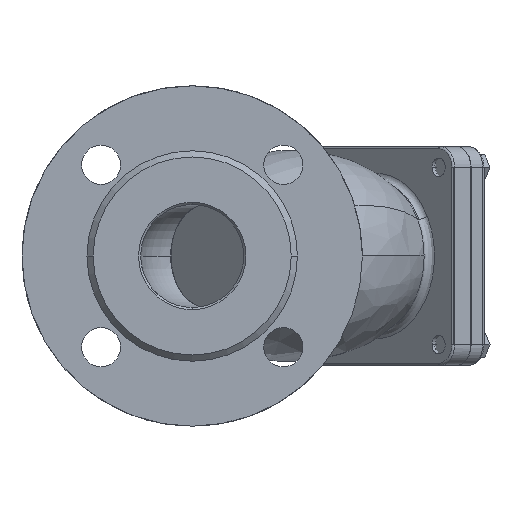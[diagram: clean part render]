
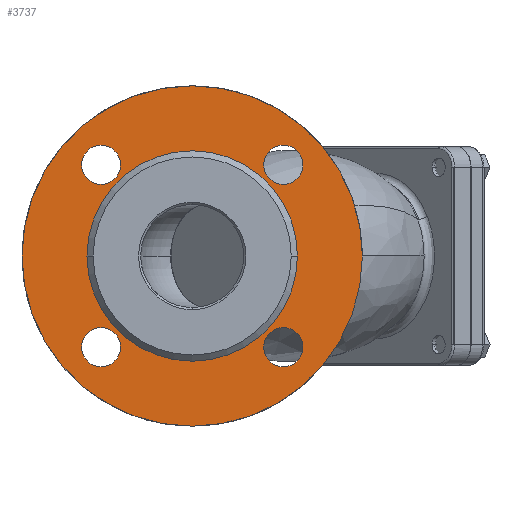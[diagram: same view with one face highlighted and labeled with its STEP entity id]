
A CAD part, left-side view. The second image highlights one B-rep face of the part: STEP entity #3737.
In plain terms, the highlighted planar face has unit normal (-1, 0, 0).
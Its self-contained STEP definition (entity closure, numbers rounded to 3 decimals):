
#68 = DIRECTION ( 'NONE',  ( 0., 0., -1. ) ) ;
#419 = CIRCLE ( 'NONE', #4062, 9.5 ) ;
#568 = CIRCLE ( 'NONE', #13527, 9.5 ) ;
#1016 = DIRECTION ( 'NONE',  ( 0., 0., -1. ) ) ;
#1295 = CARTESIAN_POINT ( 'NONE',  ( 3., -44.194, 34.694 ) ) ;
#1313 = FACE_OUTER_BOUND ( 'NONE', #5876, .T. ) ;
#1398 = EDGE_LOOP ( 'NONE', ( #5089, #13209 ) ) ;
#1511 = CIRCLE ( 'NONE', #20435, 82.5 ) ;
#1589 = CARTESIAN_POINT ( 'NONE',  ( 3., -51., 0. ) ) ;
#2378 = DIRECTION ( 'NONE',  ( -1., 0., 0. ) ) ;
#2703 = CARTESIAN_POINT ( 'NONE',  ( 3., -44.194, 53.694 ) ) ;
#2754 = EDGE_CURVE ( 'NONE', #15915, #18581, #7198, .T. ) ;
#3104 = EDGE_LOOP ( 'NONE', ( #18229, #4578 ) ) ;
#3315 = EDGE_CURVE ( 'NONE', #18244, #14681, #24243, .T. ) ;
#3737 = ADVANCED_FACE ( 'NONE', ( #15717, #10690, #11272, #20742, #1313, #5717 ), #8207, .T. ) ;
#4062 = AXIS2_PLACEMENT_3D ( 'NONE', #7717, #20879, #9604 ) ;
#4281 = ORIENTED_EDGE ( 'NONE', *, *, #4441, .F. ) ;
#4441 = EDGE_CURVE ( 'NONE', #14681, #18244, #419, .T. ) ;
#4491 = CARTESIAN_POINT ( 'NONE',  ( 3., 0., 0. ) ) ;
#4578 = ORIENTED_EDGE ( 'NONE', *, *, #19159, .F. ) ;
#4951 = CARTESIAN_POINT ( 'NONE',  ( 3., 44.194, -44.194 ) ) ;
#4968 = ORIENTED_EDGE ( 'NONE', *, *, #22694, .F. ) ;
#5089 = ORIENTED_EDGE ( 'NONE', *, *, #17527, .T. ) ;
#5161 = CARTESIAN_POINT ( 'NONE',  ( 3., 0., 82.5 ) ) ;
#5322 = EDGE_LOOP ( 'NONE', ( #15177, #14580 ) ) ;
#5614 = CIRCLE ( 'NONE', #23108, 9.5 ) ;
#5658 = DIRECTION ( 'NONE',  ( -1., 0., 0. ) ) ;
#5717 = FACE_BOUND ( 'NONE', #1398, .T. ) ;
#5727 = ORIENTED_EDGE ( 'NONE', *, *, #10295, .F. ) ;
#5809 = CARTESIAN_POINT ( 'NONE',  ( 3., -44.194, 44.194 ) ) ;
#5876 = EDGE_LOOP ( 'NONE', ( #7886, #5727 ) ) ;
#5897 = VERTEX_POINT ( 'NONE', #17127 ) ;
#5934 = DIRECTION ( 'NONE',  ( -1., 0., 0. ) ) ;
#6174 = CARTESIAN_POINT ( 'NONE',  ( 3., 0., 0. ) ) ;
#6376 = DIRECTION ( 'NONE',  ( 0., 0., 1. ) ) ;
#6380 = CIRCLE ( 'NONE', #17819, 82.5 ) ;
#6480 = EDGE_CURVE ( 'NONE', #10791, #16294, #10645, .T. ) ;
#6738 = AXIS2_PLACEMENT_3D ( 'NONE', #6174, #19339, #8083 ) ;
#6828 = DIRECTION ( 'NONE',  ( 0., 0., 1. ) ) ;
#7198 = CIRCLE ( 'NONE', #11740, 9.5 ) ;
#7221 = CARTESIAN_POINT ( 'NONE',  ( 3., -44.194, -44.194 ) ) ;
#7240 = AXIS2_PLACEMENT_3D ( 'NONE', #7221, #20392, #9122 ) ;
#7340 = VERTEX_POINT ( 'NONE', #1589 ) ;
#7414 = DIRECTION ( 'NONE',  ( 1., 0., 0. ) ) ;
#7598 = AXIS2_PLACEMENT_3D ( 'NONE', #18657, #7414, #20579 ) ;
#7716 = DIRECTION ( 'NONE',  ( 0., 0., 1. ) ) ;
#7717 = CARTESIAN_POINT ( 'NONE',  ( 3., 44.194, 44.194 ) ) ;
#7886 = ORIENTED_EDGE ( 'NONE', *, *, #19948, .F. ) ;
#8083 = DIRECTION ( 'NONE',  ( 0., 1., 0. ) ) ;
#8207 = PLANE ( 'NONE',  #9590 ) ;
#8804 = AXIS2_PLACEMENT_3D ( 'NONE', #16899, #5658, #18810 ) ;
#9122 = DIRECTION ( 'NONE',  ( 0., 0., 1. ) ) ;
#9124 = DIRECTION ( 'NONE',  ( -1., 0., 0. ) ) ;
#9590 = AXIS2_PLACEMENT_3D ( 'NONE', #4491, #17610, #6376 ) ;
#9604 = DIRECTION ( 'NONE',  ( 0., 0., 1. ) ) ;
#10295 = EDGE_CURVE ( 'NONE', #13109, #19609, #1511, .T. ) ;
#10539 = EDGE_LOOP ( 'NONE', ( #4968, #17646 ) ) ;
#10645 = CIRCLE ( 'NONE', #7240, 9.5 ) ;
#10690 = FACE_BOUND ( 'NONE', #5322, .T. ) ;
#10715 = CARTESIAN_POINT ( 'NONE',  ( 3., -44.194, -53.694 ) ) ;
#10791 = VERTEX_POINT ( 'NONE', #10715 ) ;
#11040 = CARTESIAN_POINT ( 'NONE',  ( 3., -44.194, -34.694 ) ) ;
#11271 = DIRECTION ( 'NONE',  ( 1., 0., 0. ) ) ;
#11272 = FACE_BOUND ( 'NONE', #3104, .T. ) ;
#11740 = AXIS2_PLACEMENT_3D ( 'NONE', #13615, #2378, #15532 ) ;
#12227 = DIRECTION ( 'NONE',  ( 1., 0., 0. ) ) ;
#12237 = AXIS2_PLACEMENT_3D ( 'NONE', #4951, #18071, #6828 ) ;
#12660 = EDGE_CURVE ( 'NONE', #7340, #20631, #23547, .T. ) ;
#13109 = VERTEX_POINT ( 'NONE', #5161 ) ;
#13209 = ORIENTED_EDGE ( 'NONE', *, *, #12660, .T. ) ;
#13275 = EDGE_CURVE ( 'NONE', #15309, #5897, #5614, .T. ) ;
#13456 = CIRCLE ( 'NONE', #7598, 51. ) ;
#13527 = AXIS2_PLACEMENT_3D ( 'NONE', #5809, #18973, #7716 ) ;
#13615 = CARTESIAN_POINT ( 'NONE',  ( 3., -44.194, 44.194 ) ) ;
#13744 = CARTESIAN_POINT ( 'NONE',  ( 3., 44.194, 34.694 ) ) ;
#14502 = CARTESIAN_POINT ( 'NONE',  ( 3., 44.194, 53.694 ) ) ;
#14580 = ORIENTED_EDGE ( 'NONE', *, *, #2754, .F. ) ;
#14681 = VERTEX_POINT ( 'NONE', #14502 ) ;
#15177 = ORIENTED_EDGE ( 'NONE', *, *, #16428, .F. ) ;
#15309 = VERTEX_POINT ( 'NONE', #19956 ) ;
#15532 = DIRECTION ( 'NONE',  ( 0., 0., 1. ) ) ;
#15717 = FACE_BOUND ( 'NONE', #16528, .T. ) ;
#15915 = VERTEX_POINT ( 'NONE', #2703 ) ;
#16294 = VERTEX_POINT ( 'NONE', #11040 ) ;
#16428 = EDGE_CURVE ( 'NONE', #18581, #15915, #568, .T. ) ;
#16528 = EDGE_LOOP ( 'NONE', ( #19848, #4281 ) ) ;
#16899 = CARTESIAN_POINT ( 'NONE',  ( 3., 44.194, 44.194 ) ) ;
#17127 = CARTESIAN_POINT ( 'NONE',  ( 3., 44.194, -53.694 ) ) ;
#17175 = CARTESIAN_POINT ( 'NONE',  ( 3., -44.194, -44.194 ) ) ;
#17527 = EDGE_CURVE ( 'NONE', #20631, #7340, #13456, .T. ) ;
#17610 = DIRECTION ( 'NONE',  ( -1., 0., 0. ) ) ;
#17646 = ORIENTED_EDGE ( 'NONE', *, *, #13275, .F. ) ;
#17819 = AXIS2_PLACEMENT_3D ( 'NONE', #22577, #11271, #68 ) ;
#18071 = DIRECTION ( 'NONE',  ( -1., 0., 0. ) ) ;
#18229 = ORIENTED_EDGE ( 'NONE', *, *, #6480, .F. ) ;
#18244 = VERTEX_POINT ( 'NONE', #13744 ) ;
#18581 = VERTEX_POINT ( 'NONE', #1295 ) ;
#18657 = CARTESIAN_POINT ( 'NONE',  ( 3., 0., 0. ) ) ;
#18810 = DIRECTION ( 'NONE',  ( 0., 0., 1. ) ) ;
#18844 = CIRCLE ( 'NONE', #12237, 9.5 ) ;
#18973 = DIRECTION ( 'NONE',  ( -1., 0., 0. ) ) ;
#19104 = DIRECTION ( 'NONE',  ( 0., 0., 1. ) ) ;
#19159 = EDGE_CURVE ( 'NONE', #16294, #10791, #22870, .T. ) ;
#19339 = DIRECTION ( 'NONE',  ( 1., 0., 0. ) ) ;
#19609 = VERTEX_POINT ( 'NONE', #20890 ) ;
#19848 = ORIENTED_EDGE ( 'NONE', *, *, #3315, .F. ) ;
#19948 = EDGE_CURVE ( 'NONE', #19609, #13109, #6380, .T. ) ;
#19956 = CARTESIAN_POINT ( 'NONE',  ( 3., 44.194, -34.694 ) ) ;
#20392 = DIRECTION ( 'NONE',  ( -1., 0., 0. ) ) ;
#20393 = CARTESIAN_POINT ( 'NONE',  ( 3., 44.194, -44.194 ) ) ;
#20435 = AXIS2_PLACEMENT_3D ( 'NONE', #23521, #12227, #1016 ) ;
#20579 = DIRECTION ( 'NONE',  ( 0., 1., 0. ) ) ;
#20631 = VERTEX_POINT ( 'NONE', #23440 ) ;
#20742 = FACE_BOUND ( 'NONE', #10539, .T. ) ;
#20879 = DIRECTION ( 'NONE',  ( -1., 0., 0. ) ) ;
#20890 = CARTESIAN_POINT ( 'NONE',  ( 3., 0., -82.5 ) ) ;
#21319 = AXIS2_PLACEMENT_3D ( 'NONE', #17175, #5934, #19104 ) ;
#22277 = DIRECTION ( 'NONE',  ( 0., 0., 1. ) ) ;
#22577 = CARTESIAN_POINT ( 'NONE',  ( 3., 0., 0. ) ) ;
#22694 = EDGE_CURVE ( 'NONE', #5897, #15309, #18844, .T. ) ;
#22870 = CIRCLE ( 'NONE', #21319, 9.5 ) ;
#23108 = AXIS2_PLACEMENT_3D ( 'NONE', #20393, #9124, #22277 ) ;
#23440 = CARTESIAN_POINT ( 'NONE',  ( 3., 51., 0. ) ) ;
#23521 = CARTESIAN_POINT ( 'NONE',  ( 3., 0., 0. ) ) ;
#23547 = CIRCLE ( 'NONE', #6738, 51. ) ;
#24243 = CIRCLE ( 'NONE', #8804, 9.5 ) ;
